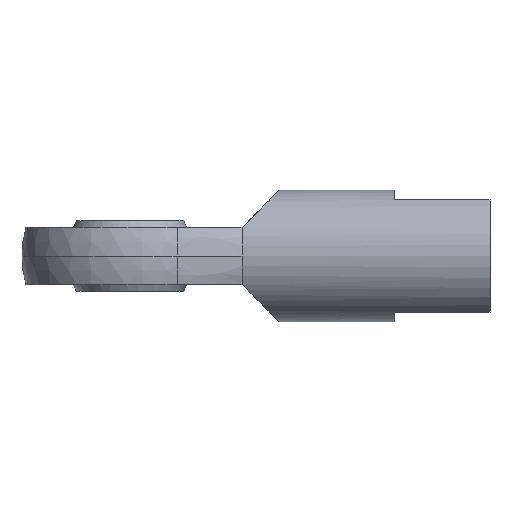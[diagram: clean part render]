
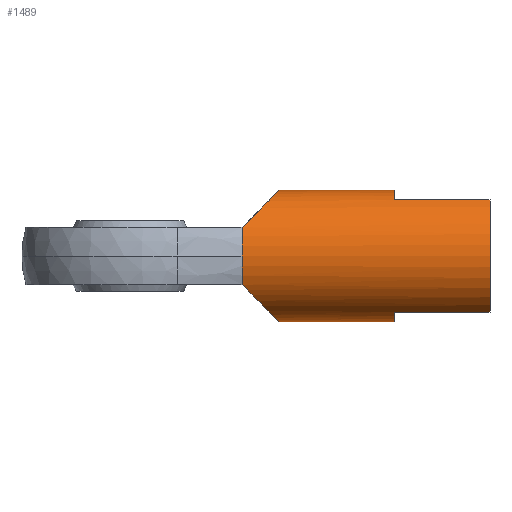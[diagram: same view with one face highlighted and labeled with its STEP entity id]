
A CAD part, front view. The second image highlights one B-rep face of the part: STEP entity #1489.
In plain terms, the highlighted cylindrical face has radius 41 mm (diameter 82 mm), a partial arc.
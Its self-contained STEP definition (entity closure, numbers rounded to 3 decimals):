
#118 = VERTEX_POINT ( 'NONE', #450 ) ;
#122 = VERTEX_POINT ( 'NONE', #444 ) ;
#132 = EDGE_CURVE ( 'NONE', #118, #122, #492, .T. ) ;
#134 = ORIENTED_EDGE ( 'NONE', *, *, #1504, .T. ) ;
#135 = EDGE_CURVE ( 'NONE', #1492, #248, #483, .T. ) ;
#136 = ORIENTED_EDGE ( 'NONE', *, *, #135, .F. ) ;
#139 = ORIENTED_EDGE ( 'NONE', *, *, #232, .T. ) ;
#229 = VERTEX_POINT ( 'NONE', #654 ) ;
#232 = EDGE_CURVE ( 'NONE', #229, #248, #705, .T. ) ;
#248 = VERTEX_POINT ( 'NONE', #678 ) ;
#444 = CARTESIAN_POINT ( 'NONE',  ( 70., -36.837, -18. ) ) ;
#450 = CARTESIAN_POINT ( 'NONE',  ( 70., -41., 0. ) ) ;
#479 = DIRECTION ( 'NONE',  ( 0., 0., 1. ) ) ;
#480 = DIRECTION ( 'NONE',  ( 1., 0., 0. ) ) ;
#481 = CARTESIAN_POINT ( 'NONE',  ( 165., 0., 0. ) ) ;
#482 = AXIS2_PLACEMENT_3D ( 'NONE', #481, #480, #479 ) ;
#483 = CIRCLE ( 'NONE', #482, 41. ) ;
#484 = DIRECTION ( 'NONE',  ( 0., 1., 0. ) ) ;
#485 = DIRECTION ( 'NONE',  ( 1., 0., 0. ) ) ;
#486 = CARTESIAN_POINT ( 'NONE',  ( 70., 0., 0. ) ) ;
#487 = AXIS2_PLACEMENT_3D ( 'NONE', #486, #485, #484 ) ;
#492 = CIRCLE ( 'NONE', #487, 41. ) ;
#654 = CARTESIAN_POINT ( 'NONE',  ( 93., 0., -41. ) ) ;
#678 = CARTESIAN_POINT ( 'NONE',  ( 165., 0., -41. ) ) ;
#702 = DIRECTION ( 'NONE',  ( 1., 0., 0. ) ) ;
#703 = VECTOR ( 'NONE', #702, 1000. ) ;
#704 = CARTESIAN_POINT ( 'NONE',  ( 70., 0., -41. ) ) ;
#705 = LINE ( 'NONE', #704, #703 ) ;
#769 = VECTOR ( 'NONE', #823, 1000. ) ;
#770 = CARTESIAN_POINT ( 'NONE',  ( 70., 0., 41. ) ) ;
#771 = LINE ( 'NONE', #770, #769 ) ;
#772 = CARTESIAN_POINT ( 'NONE',  ( 165., 0., 41. ) ) ;
#821 = CARTESIAN_POINT ( 'NONE',  ( 93., 0., 41. ) ) ;
#823 = DIRECTION ( 'NONE',  ( 1., 0., 0. ) ) ;
#824 = CARTESIAN_POINT ( 'NONE',  ( 84.47, -29.767, 32.47 ) ) ;
#825 = CARTESIAN_POINT ( 'NONE',  ( 70., -36.837, 18. ) ) ;
#826 =( BOUNDED_CURVE ( )  B_SPLINE_CURVE ( 3, ( #825, #824, #872, #871 ),
 .UNSPECIFIED., .F., .T. ) 
 B_SPLINE_CURVE_WITH_KNOTS ( ( 4, 4 ),
 ( 5.167, 6.283 ),
 .UNSPECIFIED. ) 
 CURVE ( )  GEOMETRIC_REPRESENTATION_ITEM ( )  RATIONAL_B_SPLINE_CURVE ( ( 1., 0.899, 0.899, 1. ) ) 
 REPRESENTATION_ITEM ( '' )  );
#827 = CARTESIAN_POINT ( 'NONE',  ( 225., -21.354, -35. ) ) ;
#846 =( BOUNDED_CURVE ( )  B_SPLINE_CURVE ( 3, ( #899, #898, #897, #896 ),
 .UNSPECIFIED., .F., .T. ) 
 B_SPLINE_CURVE_WITH_KNOTS ( ( 4, 4 ),
 ( 0., 1.116 ),
 .UNSPECIFIED. ) 
 CURVE ( )  GEOMETRIC_REPRESENTATION_ITEM ( )  RATIONAL_B_SPLINE_CURVE ( ( 1., 0.899, 0.899, 1. ) ) 
 REPRESENTATION_ITEM ( '' )  );
#856 = CARTESIAN_POINT ( 'NONE',  ( 70., -36.837, 18. ) ) ;
#860 = DIRECTION ( 'NONE',  ( 0., 0., -1. ) ) ;
#861 = DIRECTION ( 'NONE',  ( 1., 0., 0. ) ) ;
#862 = AXIS2_PLACEMENT_3D ( 'NONE', #864, #861, #860 ) ;
#863 = CARTESIAN_POINT ( 'NONE',  ( 165., -21.354, -35. ) ) ;
#864 = CARTESIAN_POINT ( 'NONE',  ( 70., 0., 0. ) ) ;
#865 = CYLINDRICAL_SURFACE ( 'NONE', #862, 41. ) ;
#866 = FACE_OUTER_BOUND ( 'NONE', #1483, .T. ) ;
#867 = DIRECTION ( 'NONE',  ( -1., 0., 0. ) ) ;
#868 = VECTOR ( 'NONE', #867, 1000. ) ;
#869 = CARTESIAN_POINT ( 'NONE',  ( 70., -21.354, -35. ) ) ;
#870 = LINE ( 'NONE', #869, #868 ) ;
#871 = CARTESIAN_POINT ( 'NONE',  ( 93., 0., 41. ) ) ;
#872 = CARTESIAN_POINT ( 'NONE',  ( 93., -16.105, 41. ) ) ;
#877 = DIRECTION ( 'NONE',  ( 0., 0., -1. ) ) ;
#878 = DIRECTION ( 'NONE',  ( 1., 0., 0. ) ) ;
#879 = CARTESIAN_POINT ( 'NONE',  ( 225., 0., 0. ) ) ;
#880 = AXIS2_PLACEMENT_3D ( 'NONE', #879, #878, #877 ) ;
#881 = CIRCLE ( 'NONE', #880, 41. ) ;
#882 = DIRECTION ( 'NONE',  ( 1., 0., 0. ) ) ;
#883 = VECTOR ( 'NONE', #882, 1000. ) ;
#884 = CARTESIAN_POINT ( 'NONE',  ( 70., -21.354, 35. ) ) ;
#885 = LINE ( 'NONE', #884, #883 ) ;
#886 = CARTESIAN_POINT ( 'NONE',  ( 225., -21.354, 35. ) ) ;
#891 = DIRECTION ( 'NONE',  ( 0., 1., 0. ) ) ;
#892 = DIRECTION ( 'NONE',  ( 1., 0., 0. ) ) ;
#893 = CARTESIAN_POINT ( 'NONE',  ( 70., 0., 0. ) ) ;
#894 = AXIS2_PLACEMENT_3D ( 'NONE', #893, #892, #891 ) ;
#895 = CIRCLE ( 'NONE', #894, 41. ) ;
#896 = CARTESIAN_POINT ( 'NONE',  ( 70., -36.837, -18. ) ) ;
#897 = CARTESIAN_POINT ( 'NONE',  ( 84.47, -29.767, -32.47 ) ) ;
#898 = CARTESIAN_POINT ( 'NONE',  ( 93., -16.105, -41. ) ) ;
#899 = CARTESIAN_POINT ( 'NONE',  ( 93., 0., -41. ) ) ;
#1091 = CARTESIAN_POINT ( 'NONE',  ( 165., -21.354, 35. ) ) ;
#1092 = DIRECTION ( 'NONE',  ( 0., 0., 1. ) ) ;
#1093 = DIRECTION ( 'NONE',  ( 1., 0., 0. ) ) ;
#1094 = CARTESIAN_POINT ( 'NONE',  ( 165., 0., 0. ) ) ;
#1095 = AXIS2_PLACEMENT_3D ( 'NONE', #1094, #1093, #1092 ) ;
#1098 = CIRCLE ( 'NONE', #1095, 41. ) ;
#1456 = VERTEX_POINT ( 'NONE', #772 ) ;
#1457 = EDGE_CURVE ( 'NONE', #1460, #1456, #771, .T. ) ;
#1460 = VERTEX_POINT ( 'NONE', #821 ) ;
#1481 = ORIENTED_EDGE ( 'NONE', *, *, #1514, .F. ) ;
#1482 = VERTEX_POINT ( 'NONE', #827 ) ;
#1483 = EDGE_LOOP ( 'NONE', ( #1488, #1484, #134, #1490, #1503, #139, #136, #1487, #1481, #1513, #1636 ) ) ;
#1484 = ORIENTED_EDGE ( 'NONE', *, *, #1485, .F. ) ;
#1485 = EDGE_CURVE ( 'NONE', #1495, #1460, #826, .T. ) ;
#1486 = EDGE_CURVE ( 'NONE', #1482, #1492, #870, .T. ) ;
#1487 = ORIENTED_EDGE ( 'NONE', *, *, #1486, .F. ) ;
#1488 = ORIENTED_EDGE ( 'NONE', *, *, #1457, .F. ) ;
#1489 = ADVANCED_FACE ( 'NONE', ( #866 ), #865, .T. ) ;
#1490 = ORIENTED_EDGE ( 'NONE', *, *, #132, .T. ) ;
#1492 = VERTEX_POINT ( 'NONE', #863 ) ;
#1495 = VERTEX_POINT ( 'NONE', #856 ) ;
#1502 = EDGE_CURVE ( 'NONE', #229, #122, #846, .T. ) ;
#1503 = ORIENTED_EDGE ( 'NONE', *, *, #1502, .F. ) ;
#1504 = EDGE_CURVE ( 'NONE', #1495, #118, #895, .T. ) ;
#1511 = VERTEX_POINT ( 'NONE', #886 ) ;
#1512 = EDGE_CURVE ( 'NONE', #1638, #1511, #885, .T. ) ;
#1513 = ORIENTED_EDGE ( 'NONE', *, *, #1512, .F. ) ;
#1514 = EDGE_CURVE ( 'NONE', #1511, #1482, #881, .T. ) ;
#1636 = ORIENTED_EDGE ( 'NONE', *, *, #1637, .F. ) ;
#1637 = EDGE_CURVE ( 'NONE', #1456, #1638, #1098, .T. ) ;
#1638 = VERTEX_POINT ( 'NONE', #1091 ) ;
